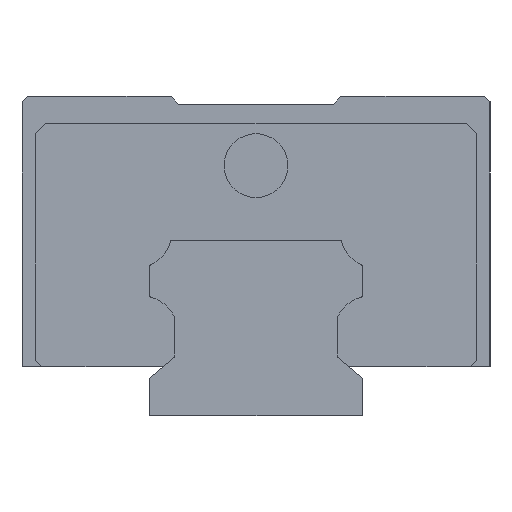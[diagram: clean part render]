
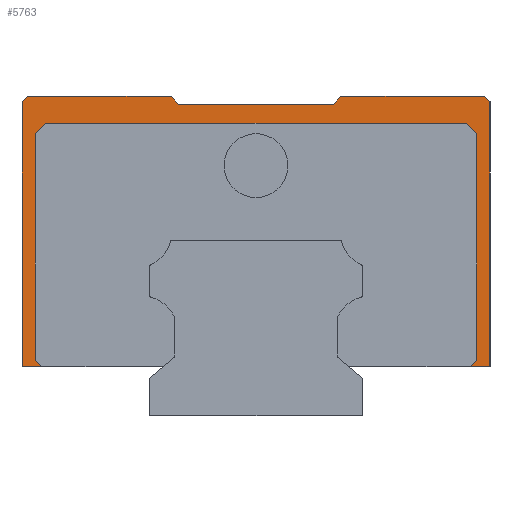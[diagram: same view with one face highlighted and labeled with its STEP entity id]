
A CAD part, left-side view. The second image highlights one B-rep face of the part: STEP entity #5763.
In plain terms, the highlighted planar face has unit normal (-1, 0, 0).
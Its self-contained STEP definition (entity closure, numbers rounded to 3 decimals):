
#55 = VERTEX_POINT ( 'NONE', #558 ) ;
#118 = VERTEX_POINT ( 'NONE', #1150 ) ;
#133 = VERTEX_POINT ( 'NONE', #5510 ) ;
#136 = DIRECTION ( 'NONE',  ( 0., -0.707, -0.707 ) ) ;
#282 = VECTOR ( 'NONE', #5263, 1000. ) ;
#324 = LINE ( 'NONE', #1844, #5248 ) ;
#394 = EDGE_CURVE ( 'NONE', #1343, #118, #992, .T. ) ;
#460 = DIRECTION ( 'NONE',  ( 0., 0.643, 0.766 ) ) ;
#488 = VERTEX_POINT ( 'NONE', #4891 ) ;
#558 = CARTESIAN_POINT ( 'NONE',  ( -39., 20.75, 5.2 ) ) ;
#576 = VERTEX_POINT ( 'NONE', #2229 ) ;
#638 = LINE ( 'NONE', #927, #5507 ) ;
#729 = CARTESIAN_POINT ( 'NONE',  ( -39., 22., 30. ) ) ;
#829 = EDGE_CURVE ( 'NONE', #4103, #118, #4996, .T. ) ;
#844 = CARTESIAN_POINT ( 'NONE',  ( -39., -22., 28. ) ) ;
#877 = VECTOR ( 'NONE', #136, 1000. ) ;
#923 = CARTESIAN_POINT ( 'NONE',  ( -39., -22., 30. ) ) ;
#926 = EDGE_CURVE ( 'NONE', #5366, #5118, #4169, .T. ) ;
#927 = CARTESIAN_POINT ( 'NONE',  ( -39., 22., 4.6 ) ) ;
#962 = DIRECTION ( 'NONE',  ( 0., 1., 0. ) ) ;
#982 = DIRECTION ( 'NONE',  ( 0., 1., 0. ) ) ;
#986 = ORIENTED_EDGE ( 'NONE', *, *, #2712, .F. ) ;
#992 = LINE ( 'NONE', #3299, #5829 ) ;
#1109 = CARTESIAN_POINT ( 'NONE',  ( -39., -22., 27.5 ) ) ;
#1150 = CARTESIAN_POINT ( 'NONE',  ( -39., 7.963, 30. ) ) ;
#1202 = CARTESIAN_POINT ( 'NONE',  ( -39., -7.963, 30. ) ) ;
#1242 = CARTESIAN_POINT ( 'NONE',  ( -39., 22., 4.6 ) ) ;
#1250 = EDGE_CURVE ( 'NONE', #55, #576, #4902, .T. ) ;
#1291 = CARTESIAN_POINT ( 'NONE',  ( -39., -33.775, 18.225 ) ) ;
#1343 = VERTEX_POINT ( 'NONE', #5086 ) ;
#1385 = DIRECTION ( 'NONE',  ( 0., 0., -1. ) ) ;
#1461 = LINE ( 'NONE', #4239, #2754 ) ;
#1462 = CARTESIAN_POINT ( 'NONE',  ( -39., -20.15, 4.6 ) ) ;
#1494 = CARTESIAN_POINT ( 'NONE',  ( -39., -22., 29.5 ) ) ;
#1700 = DIRECTION ( 'NONE',  ( 0., -1., 0. ) ) ;
#1785 = ORIENTED_EDGE ( 'NONE', *, *, #926, .F. ) ;
#1821 = VERTEX_POINT ( 'NONE', #5668 ) ;
#1844 = CARTESIAN_POINT ( 'NONE',  ( -39., 20.75, 30. ) ) ;
#1892 = PLANE ( 'NONE',  #4452 ) ;
#1999 = VERTEX_POINT ( 'NONE', #2443 ) ;
#2051 = VECTOR ( 'NONE', #4278, 1000. ) ;
#2087 = VECTOR ( 'NONE', #3187, 1000. ) ;
#2108 = ORIENTED_EDGE ( 'NONE', *, *, #3132, .F. ) ;
#2229 = CARTESIAN_POINT ( 'NONE',  ( -39., 20.15, 4.6 ) ) ;
#2251 = LINE ( 'NONE', #3250, #3241 ) ;
#2346 = ORIENTED_EDGE ( 'NONE', *, *, #3233, .F. ) ;
#2357 = ORIENTED_EDGE ( 'NONE', *, *, #4025, .F. ) ;
#2415 = ORIENTED_EDGE ( 'NONE', *, *, #4088, .F. ) ;
#2443 = CARTESIAN_POINT ( 'NONE',  ( -39., 20.75, 26.5 ) ) ;
#2444 = FACE_OUTER_BOUND ( 'NONE', #5284, .T. ) ;
#2458 = VECTOR ( 'NONE', #5876, 1000. ) ;
#2551 = VECTOR ( 'NONE', #2621, 1000. ) ;
#2621 = DIRECTION ( 'NONE',  ( 0., 0.643, -0.766 ) ) ;
#2712 = EDGE_CURVE ( 'NONE', #576, #3924, #2251, .T. ) ;
#2754 = VECTOR ( 'NONE', #3357, 1000. ) ;
#2784 = DIRECTION ( 'NONE',  ( 0., 0., -1. ) ) ;
#2867 = ORIENTED_EDGE ( 'NONE', *, *, #5292, .T. ) ;
#2872 = VECTOR ( 'NONE', #5574, 1000. ) ;
#2900 = VERTEX_POINT ( 'NONE', #3408 ) ;
#2979 = EDGE_CURVE ( 'NONE', #3616, #1821, #3553, .T. ) ;
#3132 = EDGE_CURVE ( 'NONE', #3139, #4513, #5185, .T. ) ;
#3139 = VERTEX_POINT ( 'NONE', #4618 ) ;
#3141 = DIRECTION ( 'NONE',  ( 0., 1., 0. ) ) ;
#3187 = DIRECTION ( 'NONE',  ( 0., -0.707, 0.707 ) ) ;
#3197 = DIRECTION ( 'NONE',  ( 0., 1., 0. ) ) ;
#3233 = EDGE_CURVE ( 'NONE', #1999, #55, #324, .T. ) ;
#3241 = VECTOR ( 'NONE', #3197, 1000. ) ;
#3250 = CARTESIAN_POINT ( 'NONE',  ( -39., 9., 4.6 ) ) ;
#3270 = CARTESIAN_POINT ( 'NONE',  ( -39., -7.333, 29.25 ) ) ;
#3299 = CARTESIAN_POINT ( 'NONE',  ( -39., 7.333, 29.25 ) ) ;
#3357 = DIRECTION ( 'NONE',  ( 0., 0.707, 0.707 ) ) ;
#3394 = LINE ( 'NONE', #1494, #282 ) ;
#3408 = CARTESIAN_POINT ( 'NONE',  ( -39., 22., 29.5 ) ) ;
#3496 = ORIENTED_EDGE ( 'NONE', *, *, #3648, .F. ) ;
#3553 = LINE ( 'NONE', #1202, #2551 ) ;
#3564 = EDGE_CURVE ( 'NONE', #1821, #1343, #5557, .T. ) ;
#3580 = ORIENTED_EDGE ( 'NONE', *, *, #394, .T. ) ;
#3583 = VECTOR ( 'NONE', #3141, 1000. ) ;
#3616 = VERTEX_POINT ( 'NONE', #3667 ) ;
#3648 = EDGE_CURVE ( 'NONE', #4513, #5366, #5206, .T. ) ;
#3667 = CARTESIAN_POINT ( 'NONE',  ( -39., -7.963, 30. ) ) ;
#3684 = CARTESIAN_POINT ( 'NONE',  ( -39., -2.375, 49.625 ) ) ;
#3715 = ORIENTED_EDGE ( 'NONE', *, *, #4147, .F. ) ;
#3780 = LINE ( 'NONE', #5401, #2458 ) ;
#3787 = CARTESIAN_POINT ( 'NONE',  ( -39., -22., 4.6 ) ) ;
#3889 = CARTESIAN_POINT ( 'NONE',  ( -39., -22., 4.6 ) ) ;
#3924 = VERTEX_POINT ( 'NONE', #1242 ) ;
#3961 = VERTEX_POINT ( 'NONE', #4604 ) ;
#3973 = VECTOR ( 'NONE', #962, 1000. ) ;
#4025 = EDGE_CURVE ( 'NONE', #133, #3961, #5994, .T. ) ;
#4088 = EDGE_CURVE ( 'NONE', #3924, #2900, #638, .T. ) ;
#4103 = VERTEX_POINT ( 'NONE', #4387 ) ;
#4147 = EDGE_CURVE ( 'NONE', #488, #133, #1461, .T. ) ;
#4154 = EDGE_CURVE ( 'NONE', #4103, #2900, #5928, .T. ) ;
#4169 = LINE ( 'NONE', #1291, #2087 ) ;
#4220 = LINE ( 'NONE', #4650, #5622 ) ;
#4239 = CARTESIAN_POINT ( 'NONE',  ( -39., -19.625, 27.625 ) ) ;
#4248 = VERTEX_POINT ( 'NONE', #5958 ) ;
#4278 = DIRECTION ( 'NONE',  ( 0., 1., 0. ) ) ;
#4352 = ORIENTED_EDGE ( 'NONE', *, *, #5554, .F. ) ;
#4387 = CARTESIAN_POINT ( 'NONE',  ( -39., 21.5, 30. ) ) ;
#4403 = ORIENTED_EDGE ( 'NONE', *, *, #2979, .T. ) ;
#4452 = AXIS2_PLACEMENT_3D ( 'NONE', #923, #5722, #982 ) ;
#4484 = DIRECTION ( 'NONE',  ( 0., 0.707, -0.707 ) ) ;
#4513 = VERTEX_POINT ( 'NONE', #3889 ) ;
#4604 = CARTESIAN_POINT ( 'NONE',  ( -39., 19.75, 27.5 ) ) ;
#4618 = CARTESIAN_POINT ( 'NONE',  ( -39., -22., 29.5 ) ) ;
#4650 = CARTESIAN_POINT ( 'NONE',  ( -39., -20.75, 30. ) ) ;
#4663 = ORIENTED_EDGE ( 'NONE', *, *, #4154, .T. ) ;
#4708 = DIRECTION ( 'NONE',  ( 0., 0., 1. ) ) ;
#4756 = ORIENTED_EDGE ( 'NONE', *, *, #6062, .F. ) ;
#4852 = DIRECTION ( 'NONE',  ( 0., 0., 1. ) ) ;
#4891 = CARTESIAN_POINT ( 'NONE',  ( -39., -20.75, 26.5 ) ) ;
#4902 = LINE ( 'NONE', #5459, #877 ) ;
#4936 = ORIENTED_EDGE ( 'NONE', *, *, #5824, .F. ) ;
#4996 = LINE ( 'NONE', #729, #5046 ) ;
#5046 = VECTOR ( 'NONE', #1700, 1000. ) ;
#5069 = ORIENTED_EDGE ( 'NONE', *, *, #829, .F. ) ;
#5086 = CARTESIAN_POINT ( 'NONE',  ( -39., 7.333, 29.25 ) ) ;
#5115 = VECTOR ( 'NONE', #4484, 1000. ) ;
#5118 = VERTEX_POINT ( 'NONE', #5995 ) ;
#5185 = LINE ( 'NONE', #844, #5650 ) ;
#5206 = LINE ( 'NONE', #3787, #3973 ) ;
#5248 = VECTOR ( 'NONE', #1385, 1000. ) ;
#5263 = DIRECTION ( 'NONE',  ( 0., 0.707, 0.707 ) ) ;
#5284 = EDGE_LOOP ( 'NONE', ( #5389, #2346, #4352, #2357, #3715, #4756, #1785, #3496, #2108, #2867, #4936, #4403, #5562, #3580, #5069, #4663, #2415, #986 ) ) ;
#5292 = EDGE_CURVE ( 'NONE', #3139, #4248, #3394, .T. ) ;
#5366 = VERTEX_POINT ( 'NONE', #1462 ) ;
#5389 = ORIENTED_EDGE ( 'NONE', *, *, #1250, .F. ) ;
#5401 = CARTESIAN_POINT ( 'NONE',  ( -39., 22., 30. ) ) ;
#5459 = CARTESIAN_POINT ( 'NONE',  ( -39., 11.775, -3.775 ) ) ;
#5473 = LINE ( 'NONE', #3684, #2872 ) ;
#5507 = VECTOR ( 'NONE', #4852, 1000. ) ;
#5510 = CARTESIAN_POINT ( 'NONE',  ( -39., -19.75, 27.5 ) ) ;
#5554 = EDGE_CURVE ( 'NONE', #3961, #1999, #5473, .T. ) ;
#5557 = LINE ( 'NONE', #3270, #3583 ) ;
#5562 = ORIENTED_EDGE ( 'NONE', *, *, #3564, .T. ) ;
#5574 = DIRECTION ( 'NONE',  ( 0., 0.707, -0.707 ) ) ;
#5622 = VECTOR ( 'NONE', #4708, 1000. ) ;
#5650 = VECTOR ( 'NONE', #2784, 1000. ) ;
#5668 = CARTESIAN_POINT ( 'NONE',  ( -39., -7.333, 29.25 ) ) ;
#5722 = DIRECTION ( 'NONE',  ( 1., 0., 0. ) ) ;
#5763 = ADVANCED_FACE ( 'NONE', ( #2444 ), #1892, .F. ) ;
#5824 = EDGE_CURVE ( 'NONE', #3616, #4248, #3780, .T. ) ;
#5829 = VECTOR ( 'NONE', #460, 1000. ) ;
#5876 = DIRECTION ( 'NONE',  ( 0., -1., 0. ) ) ;
#5899 = CARTESIAN_POINT ( 'NONE',  ( -39., 21.5, 30. ) ) ;
#5928 = LINE ( 'NONE', #5899, #5115 ) ;
#5958 = CARTESIAN_POINT ( 'NONE',  ( -39., -21.5, 30. ) ) ;
#5994 = LINE ( 'NONE', #1109, #2051 ) ;
#5995 = CARTESIAN_POINT ( 'NONE',  ( -39., -20.75, 5.2 ) ) ;
#6062 = EDGE_CURVE ( 'NONE', #5118, #488, #4220, .T. ) ;
